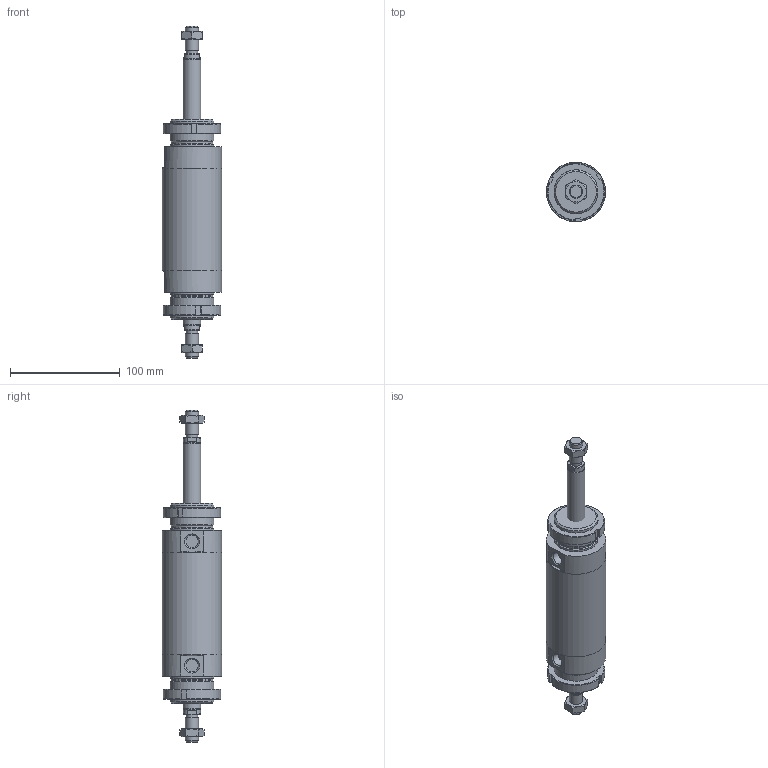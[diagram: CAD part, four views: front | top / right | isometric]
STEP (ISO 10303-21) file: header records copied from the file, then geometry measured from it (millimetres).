
FILE_DESCRIPTION(/* description */ (''),/* implementation_level */ '2;1');
FILE_NAME(/* name */ 'I:\Area Tecnica\Documenti\A-Manieri\_Inventor\12X\12X#S_###_####_#_#\12XCS_050_0050_#_#.stp',/* time_stamp */ '2015-05-08T14:18:33+02:00',/* author */ ('maniean1'),/* organization */ ('Pneumax S.p.A.'),/* preprocessor_version */ 'ST-DEVELOPER v15.2',/* originating_system */ 'Autodesk Inventor 2014',/* authorisation */ '');
FILE_SCHEMA (('AUTOMOTIVE_DESIGN { 1 0 10303 214 3 1 1 }'));
Length unit declared in the file: millimetre
Products named in the file (6): C1250_619-0050; 12X50_604; SP12X50_0050; 12X_50_11; G12X_050_05; 12XCS_050_0050_#_#
Bounding box: 54 x 54 x 302 mm (x, y, z)
Volume: 314783.6 mm3; surface area: 90405.4 mm2
Topology: 8 solids, 8 shells, 133 faces, 303 edges, 194 vertices
Faces by surface type: plane 66, cone 34, cylinder 33
Full cylindrical faces by diameter (mm): 10.2 x2, 11.4 x2, 12 x4, 14 x2, 15.6 x2, 16 x2, 38.2 x2, 40 x6, 50 x2, 54 x3
Entity records: 2300 total; most frequent: CARTESIAN_POINT 435, DIRECTION 388, ORIENTED_EDGE 310, AXIS2_PLACEMENT_3D 166, EDGE_CURVE 155, EDGE_LOOP 130, VERTEX_POINT 117, ADVANCED_FACE 85
